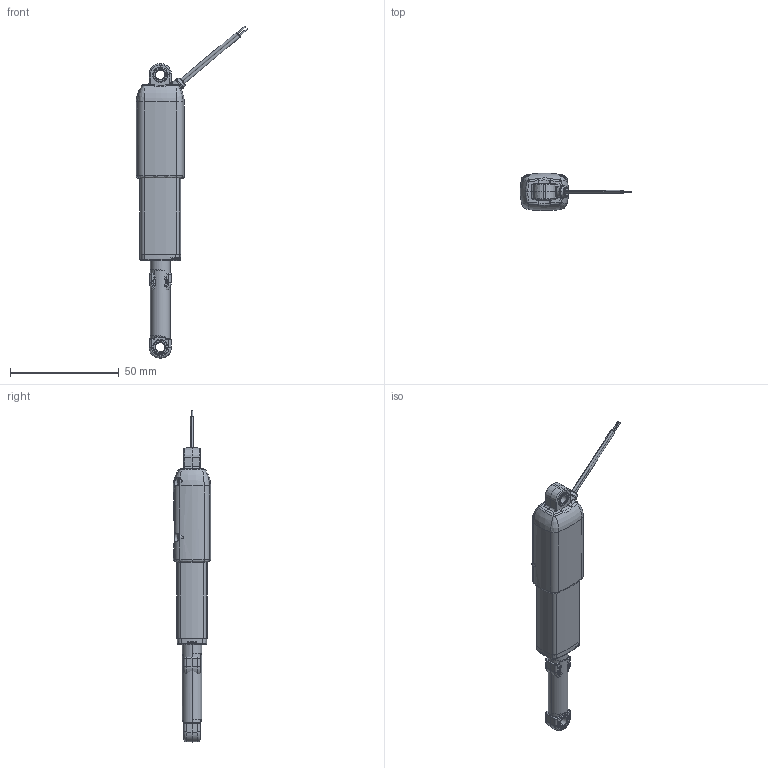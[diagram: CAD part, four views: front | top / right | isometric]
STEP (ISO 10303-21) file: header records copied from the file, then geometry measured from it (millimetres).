
FILE_DESCRIPTION (( 'STEP AP203' ), '1' );
FILE_NAME ('HLZ74-30.STEP', '2025-07-07T00:58:00', ( '' ), ( '' ), 'SwSTEP 2.0', 'SolidWorks 2018', '' );
FILE_SCHEMA (( 'CONFIG_CONTROL_DESIGN' ));
Length unit declared in the file: millimetre
Products named in the file (1): HLZ74-30
Bounding box: 51.3 x 17.07 x 152.36 mm (x, y, z)
Volume: 34121.1 mm3; surface area: 12700.2 mm2
Topology: 4 solids, 21 shells, 707 faces, 1716 edges, 1060 vertices
Faces by surface type: cylinder 246, plane 193, bspline 109, cone 84, torus 57, sphere 18
Entity records: 28098 total; most frequent: CARTESIAN_POINT 11944, ORIENTED_EDGE 3408, DIRECTION 3367, EDGE_CURVE 1704, AXIS2_PLACEMENT_3D 1399, VERTEX_POINT 1060, CIRCLE 800, EDGE_LOOP 762
